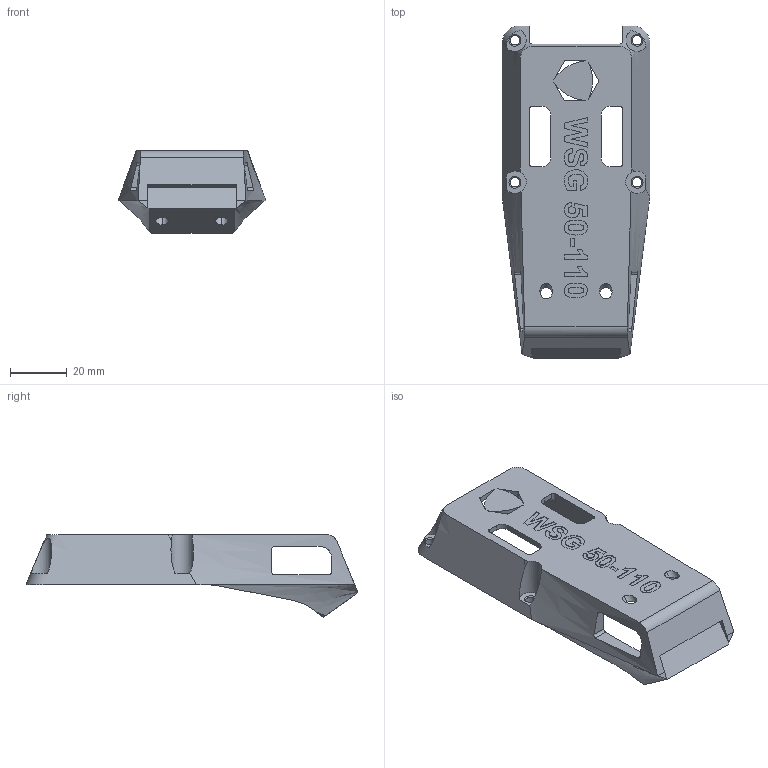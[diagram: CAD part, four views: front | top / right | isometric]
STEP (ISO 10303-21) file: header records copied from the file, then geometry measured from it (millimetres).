
FILE_DESCRIPTION (( 'STEP AP203' ), '1' );
FILE_NAME ('Gripper Finger Mount for WSG 050-110 V2.STEP', '2022-06-16T19:52:04', ( '' ), ( '' ), 'SwSTEP 2.0', 'SolidWorks 2021', '' );
FILE_SCHEMA (( 'CONFIG_CONTROL_DESIGN' ));
Length unit declared in the file: millimetre
Products named in the file (1): Gripper Finger Mount for WSG 050-110 V2
Bounding box: 52 x 116.86 x 29.07 mm (x, y, z)
Volume: 29842.4 mm3; surface area: 19343.7 mm2
Topology: 1 solids, 1 shells, 249 faces, 697 edges, 460 vertices
Faces by surface type: plane 99, bspline 70, cylinder 62, cone 18
Entity records: 12106 total; most frequent: CARTESIAN_POINT 6104, ORIENTED_EDGE 1394, DIRECTION 952, EDGE_CURVE 697, VERTEX_POINT 460, LINE 374, VECTOR 374, AXIS2_PLACEMENT_3D 289
